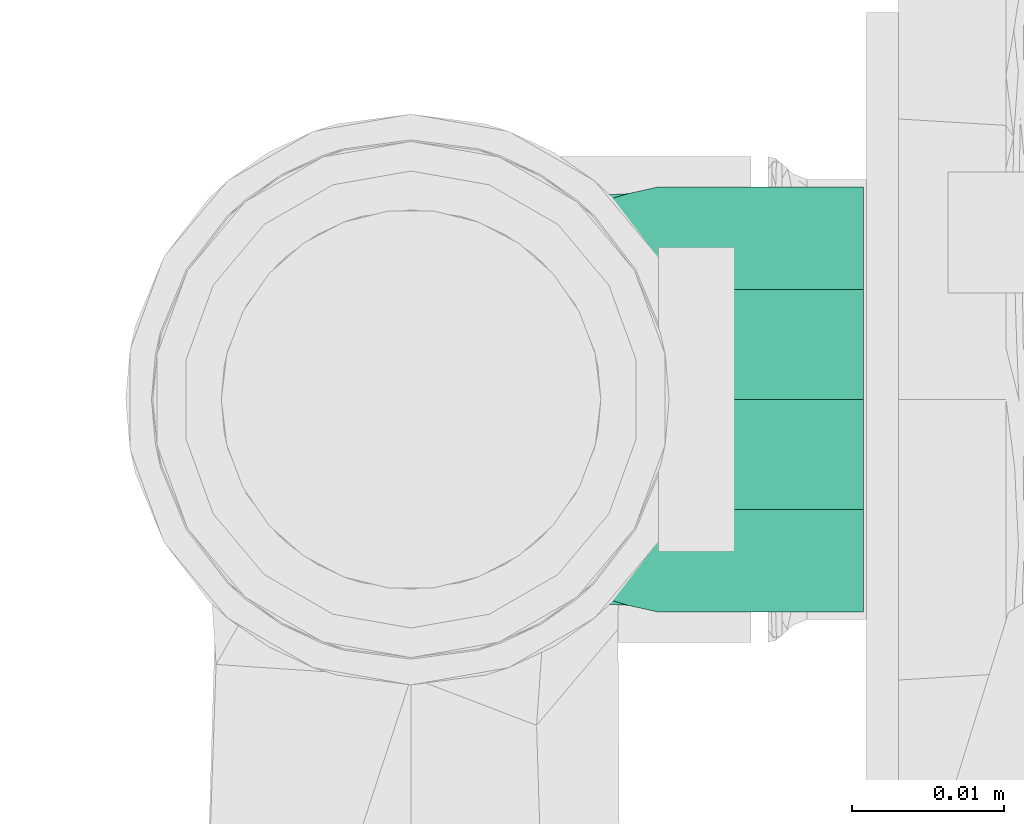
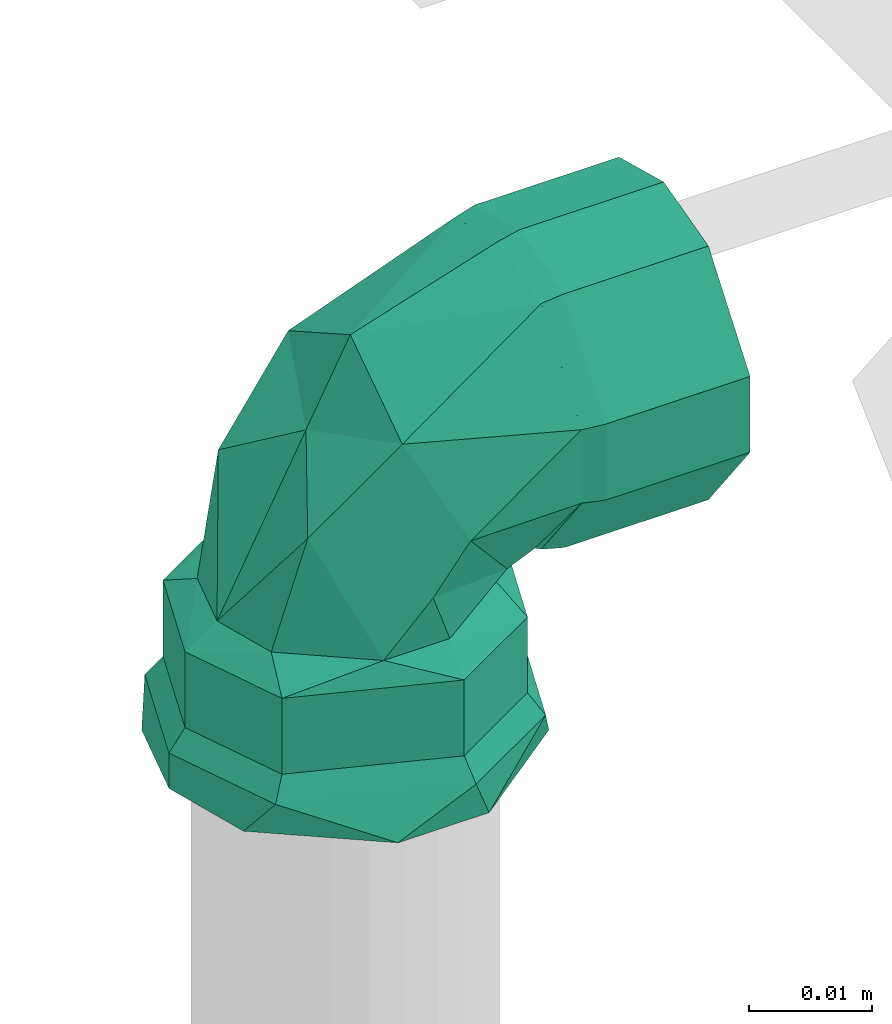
# One storey, part 359 of 589: 1 flow fitting.
"""IFC2X3 building model written with IfcOpenShell, lengths in millimetres."""

from ifc_helpers import new_model, entity, si_unit, converted_unit, derived_unit, direction, frame, origin, place, context, subcontext, project, spatial, faceted_brep, source, transform, mapped, material, type_object, type_shapes, element, save


model = new_model("IFC2X3")

# Units and contexts
model_context = context("Model", 3, precision=0.01, world=origin(), true_north=direction((6.123031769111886e-17, 1.0)))
body_context = subcontext(model_context, "Body", "Model", "MODEL_VIEW")
ifc_project = project(units=[si_unit("LENGTHUNIT", "METRE", prefix="MILLI"), si_unit("AREAUNIT", "SQUARE_METRE"), si_unit("VOLUMEUNIT", "CUBIC_METRE"), converted_unit("PLANEANGLEUNIT", "DEGREE", entity("IfcRatioMeasure", 0.017453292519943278), si_unit("PLANEANGLEUNIT", "RADIAN"), dimensions=[0, 0, 0, 0, 0, 0, 0]), si_unit("MASSUNIT", "GRAM", prefix="KILO"), derived_unit("MASSDENSITYUNIT", [(si_unit("MASSUNIT", "GRAM", prefix="KILO"), 1), (si_unit("LENGTHUNIT", "METRE"), -3)]), derived_unit("IONCONCENTRATIONUNIT", [(si_unit("MASSUNIT", "GRAM", prefix="KILO"), 1), (si_unit("LENGTHUNIT", "METRE"), -3)]), derived_unit("MOMENTOFINERTIAUNIT", [(si_unit("LENGTHUNIT", "METRE"), 4)]), si_unit("TIMEUNIT", "SECOND"), si_unit("FREQUENCYUNIT", "HERTZ"), si_unit("THERMODYNAMICTEMPERATUREUNIT", "DEGREE_CELSIUS"), derived_unit("THERMALTRANSMITTANCEUNIT", [(si_unit("MASSUNIT", "GRAM", prefix="KILO"), 1), (si_unit("THERMODYNAMICTEMPERATUREUNIT", "KELVIN"), -1), (si_unit("TIMEUNIT", "SECOND"), -3)]), derived_unit("THERMALCONDUCTANCEUNIT", [(si_unit("MASSUNIT", "GRAM", prefix="KILO"), 1), (si_unit("THERMODYNAMICTEMPERATUREUNIT", "KELVIN"), -1), (si_unit("TIMEUNIT", "SECOND"), -3), (si_unit("LENGTHUNIT", "METRE"), 1)]), derived_unit("VOLUMETRICFLOWRATEUNIT", [(si_unit("LENGTHUNIT", "METRE"), 3), (si_unit("TIMEUNIT", "SECOND"), -1)]), derived_unit("MASSFLOWRATEUNIT", [(si_unit("MASSUNIT", "GRAM", prefix="KILO"), 1), (si_unit("TIMEUNIT", "SECOND"), -1)]), derived_unit("ROTATIONALFREQUENCYUNIT", [(si_unit("TIMEUNIT", "SECOND"), -1)]), si_unit("ELECTRICCURRENTUNIT", "AMPERE"), si_unit("ELECTRICVOLTAGEUNIT", "VOLT"), si_unit("POWERUNIT", "WATT"), si_unit("FORCEUNIT", "NEWTON", prefix="KILO"), si_unit("ILLUMINANCEUNIT", "LUX"), si_unit("LUMINOUSFLUXUNIT", "LUMEN"), si_unit("LUMINOUSINTENSITYUNIT", "CANDELA"), derived_unit("USERDEFINED", [(si_unit("MASSUNIT", "GRAM", prefix="KILO"), -1), (si_unit("LENGTHUNIT", "METRE"), -2), (si_unit("TIMEUNIT", "SECOND"), 3), (si_unit("LUMINOUSFLUXUNIT", "LUMEN"), 1)]), derived_unit("USERDEFINED", [(si_unit("MASSUNIT", "GRAM", prefix="KILO"), 1), (si_unit("TIMEUNIT", "SECOND"), -3), (si_unit("LENGTHUNIT", "METRE"), 3), (si_unit("ELECTRICCURRENTUNIT", "AMPERE"), -2)]), derived_unit("SOUNDPOWERUNIT", [(si_unit("MASSUNIT", "GRAM", prefix="KILO"), 1), (si_unit("TIMEUNIT", "SECOND"), -3), (si_unit("LENGTHUNIT", "METRE"), 2)]), derived_unit("SOUNDPRESSUREUNIT", [(si_unit("MASSUNIT", "GRAM", prefix="KILO"), 1), (si_unit("LENGTHUNIT", "METRE"), -1), (si_unit("TIMEUNIT", "SECOND"), -2)]), derived_unit("LINEARVELOCITYUNIT", [(si_unit("LENGTHUNIT", "METRE"), 1), (si_unit("TIMEUNIT", "SECOND"), -1)]), si_unit("PRESSUREUNIT", "PASCAL"), derived_unit("USERDEFINED", [(si_unit("MASSUNIT", "GRAM", prefix="KILO"), 1), (si_unit("LENGTHUNIT", "METRE"), -2), (si_unit("TIMEUNIT", "SECOND"), -2)]), derived_unit("LINEARFORCEUNIT", [(si_unit("MASSUNIT", "GRAM", prefix="KILO"), 1), (si_unit("TIMEUNIT", "SECOND"), -2)]), derived_unit("PLANARFORCEUNIT", [(si_unit("MASSUNIT", "GRAM", prefix="KILO"), 1), (si_unit("LENGTHUNIT", "METRE"), -1), (si_unit("TIMEUNIT", "SECOND"), -2)]), derived_unit("SPECIFICHEATCAPACITYUNIT", [(si_unit("THERMODYNAMICTEMPERATUREUNIT", "KELVIN"), -1), (si_unit("LENGTHUNIT", "METRE"), 2), (si_unit("TIMEUNIT", "SECOND"), -2)]), derived_unit("HEATINGVALUEUNIT", [(si_unit("LENGTHUNIT", "METRE"), 2), (si_unit("TIMEUNIT", "SECOND"), -2)]), derived_unit("VAPORPERMEABILITYUNIT", [(si_unit("LENGTHUNIT", "METRE"), -1), (si_unit("TIMEUNIT", "SECOND"), 1)]), derived_unit("DYNAMICVISCOSITYUNIT", [(si_unit("MASSUNIT", "GRAM", prefix="KILO"), 1), (si_unit("TIMEUNIT", "SECOND"), -1), (si_unit("LENGTHUNIT", "METRE"), -1)]), derived_unit("THERMALEXPANSIONCOEFFICIENTUNIT", [(si_unit("THERMODYNAMICTEMPERATUREUNIT", "KELVIN"), -1)]), derived_unit("MODULUSOFELASTICITYUNIT", [(si_unit("MASSUNIT", "GRAM", prefix="KILO"), 1), (si_unit("LENGTHUNIT", "METRE"), -1), (si_unit("TIMEUNIT", "SECOND"), -2)]), derived_unit("ISOTHERMALMOISTURECAPACITYUNIT", [(si_unit("LENGTHUNIT", "METRE"), 3), (si_unit("MASSUNIT", "GRAM", prefix="KILO"), -1)]), derived_unit("MOISTUREDIFFUSIVITYUNIT", [(si_unit("TIMEUNIT", "SECOND"), -1), (si_unit("LENGTHUNIT", "METRE"), 2)])], contexts=[model_context])

# Site, building, storey
site_placement = place(None, origin())
site = spatial("IfcSite", under=ifc_project, at=site_placement, Name="Default", CompositionType="ELEMENT")
building_placement = place(site_placement, origin())
building = spatial("IfcBuilding", under=site, at=building_placement, CompositionType="ELEMENT")
storey_placement = place(building_placement, frame((0.0, 0.0, 100.0)))
storey = spatial("IfcBuildingStorey", under=building, at=storey_placement, Name="TÉRREO", CompositionType="ELEMENT", Elevation=100.0)

# Flow fitting
ifc_material = material(Name="PVC Azul")
pipe_fitting_type = type_object("IfcPipeFittingType", Name="PVC Marrom Soldável_Joelho 90° Azul com Bucha de Latão_Rodrigo MEP:Joelho_20x1/2''_ 25x1/2''_ 25x3/4'' _ 32x3/4''", PredefinedType="NOTDEFINED", material=ifc_material)
shared_shape = source(origin(), body_context, "Body", "Brep", [
    faceted_brep([(-16.299999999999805, 2.5881904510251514, -9.659258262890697), (-16.299999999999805, -2.588190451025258, -9.659258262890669), (-16.299999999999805, -3.7528761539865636, -14.005924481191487), (-16.299999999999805, 3.7528761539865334, -14.005924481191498), (-16.299999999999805, 8.660254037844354, -5.0), (-16.299999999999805, -12.557368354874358, -7.249999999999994), (-16.299999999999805, -8.660254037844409, -5.0), (-16.299999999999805, -10.0, 0.0), (-16.299999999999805, -14.499999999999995, 0.0), (-16.299999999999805, -8.660254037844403, 5.0), (-16.299999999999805, -12.557368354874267, 7.250000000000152), (-16.299999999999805, -2.5881904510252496, 9.659258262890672), (-16.299999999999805, -3.752876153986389, 14.005924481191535), (-16.299999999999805, 2.5881904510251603, 9.659258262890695), (-16.299999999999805, 3.752876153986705, 14.005924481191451), (-16.299999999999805, 8.660254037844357, 5.0), (-16.299999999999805, 12.557368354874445, 7.2499999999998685), (-16.299999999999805, 14.500000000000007, 0.0), (-16.299999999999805, 10.0, 0.0), (-16.299999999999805, 12.557368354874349, -7.250000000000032), (-23.799999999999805, 14.500000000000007, 0.0), (-25.7999999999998, 14.500000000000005, 0.0), (-29.7999999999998, 14.500000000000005, 0.0), (-29.7999999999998, 12.557368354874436, 7.24999999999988), (-25.7999999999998, 12.557368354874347, 7.250000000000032), (-23.799999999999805, 12.557368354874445, 7.2499999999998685), (-29.7999999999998, 3.7528761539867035, 14.005924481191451), (-25.7999999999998, 3.7528761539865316, 14.005924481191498), (-23.799999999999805, 3.752876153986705, 14.005924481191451), (-29.7999999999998, -3.75287615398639, 14.005924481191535), (-25.7999999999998, -3.752876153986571, 14.005924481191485), (-23.799999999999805, -3.752876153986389, 14.005924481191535), (-29.7999999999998, -12.557368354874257, 7.250000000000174), (-25.7999999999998, -12.557368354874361, 7.24999999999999), (-23.799999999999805, -12.557368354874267, 7.250000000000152), (-29.7999999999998, -14.499999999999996, 0.0), (-25.7999999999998, -14.499999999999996, 0.0), (-23.799999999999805, -14.499999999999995, 0.0), (-29.7999999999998, -12.557368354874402, -7.249999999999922), (-25.7999999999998, -12.557368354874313, -7.250000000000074), (-23.799999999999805, -12.557368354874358, -7.249999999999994), (-29.7999999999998, -3.752876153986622, -14.005924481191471), (-25.7999999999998, -3.752876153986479, -14.00592448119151), (-23.799999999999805, -3.7528761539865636, -14.005924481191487), (-29.7999999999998, 3.752876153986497, -14.005924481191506), (-25.7999999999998, 3.7528761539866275, -14.005924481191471), (-23.799999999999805, 3.7528761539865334, -14.005924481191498), (-29.7999999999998, 12.557368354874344, -7.250000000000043), (-25.7999999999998, 12.55736835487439, -7.249999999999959), (-23.799999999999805, 12.557368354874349, -7.250000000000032), (-29.7999999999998, -10.0, 0.0), (-29.7999999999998, -8.660254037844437, 5.0), (-29.7999999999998, -2.5881904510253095, 9.659258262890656), (-29.7999999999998, 2.5881904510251, 9.659258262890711), (-29.7999999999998, 8.660254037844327, 5.0), (-29.79999999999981, 10.0, 0.0), (-29.7999999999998, 8.660254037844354, -5.0), (-29.7999999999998, 2.588190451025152, -9.659258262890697), (-29.7999999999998, -2.588190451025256, -9.659258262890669), (-29.7999999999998, -8.66025403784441, -5.0)], [[[0, 1, 2]], [[2, 3, 0]], [[4, 0, 3]], [[5, 2, 1]], [[1, 6, 5]], [[6, 7, 5]], [[8, 5, 7]], [[8, 7, 9]], [[10, 8, 9]], [[9, 11, 10]], [[11, 12, 10]], [[13, 12, 11]], [[12, 13, 14]], [[13, 15, 14]], [[16, 14, 15]], [[16, 15, 17]], [[17, 15, 18]], [[18, 4, 19]], [[17, 18, 19]], [[3, 19, 4]], [[17, 20, 21, 22, 23, 24, 25, 16]], [[16, 25, 24, 23, 26, 27, 28, 14]], [[28, 27, 26, 29, 30, 31, 12, 14]], [[12, 31, 30, 29, 32, 33, 34, 10]], [[10, 34, 33, 32, 35, 36, 37, 8]], [[8, 37, 36, 35, 38, 39, 40, 5]], [[5, 40, 39, 38, 41, 42, 43, 2]], [[43, 42, 41, 44, 45, 46, 3, 2]], [[3, 46, 45, 44, 47, 48, 49, 19]], [[19, 49, 48, 47, 22, 21, 20, 17]], [[9, 7, 50, 51]], [[11, 9, 51, 52]], [[52, 53, 13, 11]], [[15, 13, 53, 54]], [[18, 15, 54, 55]], [[4, 18, 55, 56]], [[0, 4, 56, 57]], [[57, 58, 1, 0]], [[6, 1, 58, 59]], [[7, 6, 59, 50]], [[41, 58, 57]], [[58, 41, 38]], [[57, 44, 41]], [[38, 59, 58]], [[38, 50, 59]], [[50, 38, 35]], [[51, 50, 35]], [[51, 35, 32]], [[32, 52, 51]], [[32, 29, 52]], [[52, 29, 53]], [[26, 53, 29]], [[26, 54, 53]], [[54, 26, 23]], [[22, 54, 23]], [[55, 54, 22]], [[47, 55, 22]], [[47, 56, 55]], [[56, 47, 44]], [[44, 57, 56]]]),
    faceted_brep([(-16.299999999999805, -12.557368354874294, -7.250000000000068), (-16.299999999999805, -14.499999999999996, 0.0), (-16.299999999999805, -12.55736835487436, 7.249999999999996), (-16.299999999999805, -3.752876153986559, 14.005924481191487), (-16.299999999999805, 3.752876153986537, 14.005924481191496), (-16.299999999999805, 12.557368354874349, 7.250000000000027), (-16.299999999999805, 14.500000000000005, 0.0), (-16.299999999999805, 12.557368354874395, -7.249999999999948), (-16.299999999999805, 3.75287615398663, -14.005924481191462), (-16.299999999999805, -3.7528761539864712, -14.005924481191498), (-14.299999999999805, 3.6338193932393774, 13.56159860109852), (-14.299999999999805, -3.633819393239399, 13.561598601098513), (-14.299999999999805, -12.158996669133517, 7.019999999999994), (-14.299999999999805, -14.039999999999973, 0.0), (-14.299999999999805, -12.158996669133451, -7.020000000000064), (-14.299999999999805, -3.6338193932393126, -13.561598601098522), (-14.299999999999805, 3.633819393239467, -13.561598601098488), (-14.299999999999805, 12.158996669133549, -7.01999999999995), (-14.299999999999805, 14.040000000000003, 0.0), (-14.299999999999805, 12.158996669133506, 7.020000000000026)], [[[0, 1, 2, 3, 4, 5, 6, 7, 8, 9]], [[10, 11, 12, 13, 14, 15, 16, 17, 18, 19]], [[7, 6, 18, 17]], [[8, 7, 17, 16]], [[16, 15, 9, 8]], [[0, 9, 15, 14]], [[1, 0, 14, 13]], [[2, 1, 13, 12]], [[3, 2, 12, 11]], [[11, 10, 4, 3]], [[5, 4, 10, 19]], [[6, 5, 19, 18]]]),
    faceted_brep([(-3.1058285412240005, 14.30000000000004, 11.591109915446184), (-10.392304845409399, 14.30000000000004, 6.0), (-12.0, 14.30000000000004, 0.0), (-10.392304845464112, 14.30000000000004, -6.0), (-3.105828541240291, 14.30000000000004, -11.591109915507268), (3.1058285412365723, 14.30000000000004, -11.591109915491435), (10.392304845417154, 14.30000000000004, -6.0), (12.0, 14.30000000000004, 0.0), (10.392304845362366, 14.30000000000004, 6.0), (3.105828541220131, 14.30000000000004, 11.59110991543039), (11.490129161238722, 16.29999999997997, -9.64245465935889), (15.0, 16.300000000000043, 0.0), (2.6030757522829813, 16.29999999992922, -14.772406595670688), (-15.0, 16.299999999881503, 0.0), (-11.492547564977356, 16.299999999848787, -9.639572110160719), (-11.4925475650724, 16.300000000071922, 9.639572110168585), (-2.606781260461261, 16.300000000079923, 14.771753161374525), (11.490129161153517, 16.300000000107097, 9.642454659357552), (15.0, 23.800000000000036, 0.0), (11.490129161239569, 23.800000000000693, 9.64245465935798), (-2.606781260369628, 23.800000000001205, 14.771753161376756), (-11.492547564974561, 23.800000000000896, 9.63957211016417), (-15.0, 23.800000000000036, 0.0), (-11.492547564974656, 23.79999999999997, -9.639572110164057), (2.603075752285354, 23.799999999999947, -14.772406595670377), (11.4901291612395, 23.799999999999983, -9.642454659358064), (-12.639142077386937, 25.800000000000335, 10.606700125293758), (-16.500000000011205, 25.800000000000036, 0.0), (-2.8633833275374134, 25.800000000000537, 16.249647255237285), (12.641802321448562, 25.800000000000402, 10.603529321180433), (16.499999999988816, 25.800000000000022, 0.0), (12.641802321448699, 25.800000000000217, -10.603529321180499), (2.867459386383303, 25.800000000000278, -16.24892847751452), (-12.639142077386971, 25.800000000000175, -10.606700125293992), (-4.270514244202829, 29.30000000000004, -15.937776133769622), (-3.235238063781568, 29.30000000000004, -12.074072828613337), (3.235238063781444, 29.30000000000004, -12.074072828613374), (-14.28941916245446, 29.30000000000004, -8.249999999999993), (4.27051424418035, 29.30000000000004, -15.937776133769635), (-10.825317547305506, 29.30000000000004, -6.249999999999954), (-12.499999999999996, 29.30000000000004, 0.0), (-16.500000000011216, 29.30000000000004, 0.0), (-10.825317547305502, 29.30000000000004, 6.249999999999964), (-14.289419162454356, 29.30000000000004, 8.250000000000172), (-3.2352380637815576, 29.30000000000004, 12.074072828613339), (-4.27051424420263, 29.30000000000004, 15.937776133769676), (3.235238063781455, 29.30000000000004, 12.07407282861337), (4.2705142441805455, 29.30000000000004, 15.937776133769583), (10.82531754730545, 29.30000000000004, 6.250000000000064), (14.289419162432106, 29.30000000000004, 8.249999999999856), (16.499999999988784, 29.30000000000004, 0.0), (12.500000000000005, 29.30000000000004, 0.0), (14.289419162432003, 29.30000000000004, -8.250000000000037), (10.825317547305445, 29.30000000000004, -6.250000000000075), (-10.825317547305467, 16.300000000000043, -6.2500000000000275), (-12.499999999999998, 16.300000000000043, 0.0), (-10.825317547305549, 16.300000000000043, 6.249999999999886), (-3.2352380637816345, 16.30000000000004, 12.074072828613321), (3.2352380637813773, 16.30000000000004, 12.07407282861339), (10.825317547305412, 16.300000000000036, 6.250000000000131), (12.500000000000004, 16.300000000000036, 0.0), (10.82531754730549, 16.300000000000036, -6.249999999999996), (3.235238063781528, 16.30000000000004, -12.07407282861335), (-3.2352380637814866, 16.30000000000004, -12.07407282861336)], [[[0, 1, 2, 3, 4, 5, 6, 7, 8, 9]], [[6, 5, 10]], [[7, 6, 11]], [[11, 6, 10]], [[5, 12, 10]], [[3, 2, 13]], [[4, 3, 14]], [[4, 14, 12]], [[14, 3, 13]], [[4, 12, 5]], [[1, 0, 15]], [[2, 1, 13]], [[13, 1, 15]], [[0, 16, 15]], [[8, 7, 11]], [[9, 8, 17]], [[9, 17, 16]], [[17, 8, 11]], [[9, 16, 0]], [[18, 19, 17, 11]], [[17, 19, 20, 16]], [[21, 22, 13, 15]], [[21, 15, 16, 20]], [[22, 23, 14, 13]], [[14, 23, 24, 12]], [[25, 18, 11, 10]], [[25, 10, 12, 24]], [[21, 20, 26]], [[22, 21, 27]], [[27, 21, 26]], [[20, 28, 26]], [[19, 18, 29]], [[29, 28, 19]], [[30, 29, 18]], [[19, 28, 20]], [[18, 25, 31]], [[31, 30, 18]], [[32, 31, 25]], [[25, 24, 32]], [[23, 22, 27]], [[23, 33, 24]], [[33, 23, 27]], [[24, 33, 32]], [[34, 35, 36]], [[35, 34, 37]], [[36, 38, 34]], [[37, 39, 35]], [[37, 40, 39]], [[40, 37, 41]], [[42, 40, 41]], [[42, 41, 43]], [[43, 44, 42]], [[43, 45, 44]], [[44, 45, 46]], [[47, 46, 45]], [[47, 48, 46]], [[48, 47, 49]], [[50, 48, 49]], [[51, 48, 50]], [[52, 51, 50]], [[52, 53, 51]], [[53, 52, 38]], [[38, 36, 53]], [[50, 49, 30]], [[49, 29, 30]], [[29, 49, 47]], [[29, 47, 28]], [[26, 45, 43]], [[27, 43, 41]], [[45, 26, 28]], [[26, 43, 27]], [[45, 28, 47]], [[41, 37, 27]], [[37, 33, 27]], [[33, 37, 34]], [[33, 34, 32]], [[31, 38, 52]], [[30, 52, 50]], [[38, 31, 32]], [[31, 52, 30]], [[38, 32, 34]], [[54, 55, 56, 57, 58, 59, 60, 61, 62, 63]], [[56, 55, 40, 42]], [[57, 56, 42, 44]], [[44, 46, 58, 57]], [[59, 58, 46, 48]], [[60, 59, 48, 51]], [[61, 60, 51, 53]], [[62, 61, 53, 36]], [[36, 35, 63, 62]], [[54, 63, 35, 39]], [[55, 54, 39, 40]]]),
    faceted_brep([(3.1056480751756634, 14.299999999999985, 11.590538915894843), (10.391809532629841, 14.299999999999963, 5.999601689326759), (12.0, 14.299999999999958, 0.0), (10.39180953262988, 14.299999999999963, -5.999601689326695), (3.1056480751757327, 14.299999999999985, -11.590538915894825), (-3.10520360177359, 14.300000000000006, -11.590281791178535), (-10.38010506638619, 14.300000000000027, -5.994904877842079), (-12.0, 14.300000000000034, 0.0), (-10.380105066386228, 14.300000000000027, 5.994904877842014), (-3.1052036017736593, 14.300000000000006, 11.590281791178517), (-14.299999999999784, 3.633088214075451, 13.560629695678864), (-14.299999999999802, 12.144722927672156, 7.014038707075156), (-14.299999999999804, 14.040000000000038, 0.0), (-14.299999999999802, 12.144722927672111, -7.0140387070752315), (-14.299999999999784, 3.63308821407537, -13.560629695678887), (-14.299999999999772, -3.633608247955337, -13.560930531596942), (-14.299999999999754, -12.158417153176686, -7.019533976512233), (-14.299999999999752, -14.039999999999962, 0.0), (-14.299999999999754, -12.158417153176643, 7.019533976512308), (-14.299999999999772, -3.6336082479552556, 13.560930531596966), (-0.47130784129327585, -9.652655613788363, 0.0), (-13.394903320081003, 13.394903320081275, 0.0), (-11.731981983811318, 9.090980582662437, -10.425762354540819), (7.7003635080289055, 3.2782377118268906, -7.250992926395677), (-4.216463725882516, 4.16036367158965, -13.02360333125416), (0.005590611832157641, -4.597653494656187, -9.261535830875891), (-1.015336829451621, 9.007807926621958, -12.492335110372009), (-10.008512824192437, 11.46627786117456, -8.88261575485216), (3.673289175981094, -1.6924555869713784, 0.0), (-4.216465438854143, 4.1603653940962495, 13.02360333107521), (-11.731981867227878, 9.090980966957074, 10.425762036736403), (-10.008512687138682, 11.466278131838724, 8.882615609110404), (7.700363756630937, 3.278237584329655, 7.250992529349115), (0.00558956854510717, -4.597653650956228, 9.26153641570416), (-1.0153385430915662, 9.00780860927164, 12.492335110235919)], [[[0, 1, 2, 3, 4, 5, 6, 7, 8, 9]], [[10, 11, 12, 13, 14, 15, 16, 17, 18, 19]], [[20, 17, 16]], [[21, 22, 13]], [[4, 3, 23]], [[15, 24, 25]], [[26, 24, 27]], [[25, 23, 28]], [[15, 25, 16]], [[28, 20, 25]], [[23, 24, 26]], [[24, 14, 22]], [[26, 4, 23]], [[24, 22, 27]], [[14, 13, 22]], [[20, 16, 25]], [[13, 12, 21]], [[27, 22, 21]], [[2, 28, 23]], [[27, 5, 26]], [[27, 21, 7]], [[7, 6, 27]], [[27, 6, 5]], [[15, 14, 24]], [[2, 23, 3]], [[5, 4, 26]], [[23, 25, 24]], [[21, 12, 11]], [[29, 30, 10]], [[31, 9, 8]], [[29, 31, 30]], [[32, 29, 33]], [[21, 31, 7]], [[18, 20, 33]], [[31, 29, 34]], [[11, 10, 30]], [[31, 34, 9]], [[7, 31, 8]], [[21, 30, 31]], [[19, 18, 33]], [[32, 33, 28]], [[18, 17, 20]], [[20, 28, 33]], [[32, 34, 29]], [[19, 33, 29]], [[30, 21, 11]], [[34, 32, 0]], [[32, 2, 1]], [[10, 19, 29]], [[32, 1, 0]], [[0, 9, 34]], [[2, 32, 28]]]),
])
type_shapes(pipe_fitting_type, [shared_shape])
flow_fitting_placement = place(storey_placement, frame((-7250.812352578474, 1007.7159451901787, 2100.0), z_axis=(0.0, -1.0, 0.0), x_axis=(-1.0, 0.0, 0.0)))
element("IfcFlowFitting", 1, at=flow_fitting_placement, inside=storey, type_object=pipe_fitting_type, material=ifc_material, Name="PVC Marrom Soldável_Joelho 90° Azul com Bucha de Latão_Rodrigo MEP:Joelho_20x1/2''_ 25x1/2''_ 25x3/4'' _ 32x3/4''", ObjectType="PVC Marrom Soldável_Joelho 90° Azul com Bucha de Latão_Rodrigo MEP:Joelho_20x1/2''_ 25x1/2''_ 25x3/4'' _ 32x3/4''", context=body_context, shape_type="MappedRepresentation", body=[
    mapped(shared_shape, transform((0.0, 0.0, 0.0), scale=1.0)),
])

save(model, "model.ifc")
